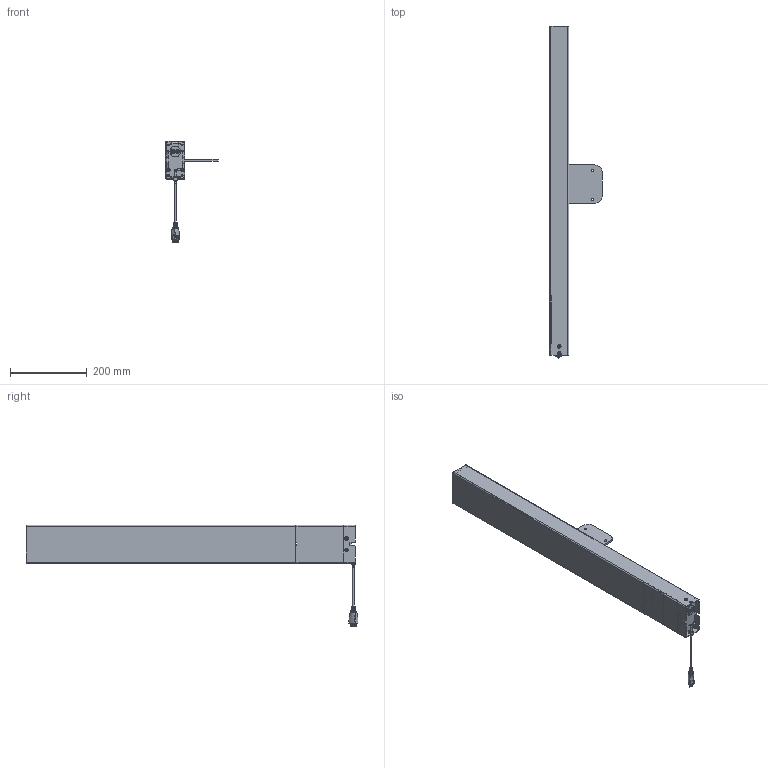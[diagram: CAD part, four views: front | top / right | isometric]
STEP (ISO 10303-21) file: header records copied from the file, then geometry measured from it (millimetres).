
FILE_DESCRIPTION (( 'STEP AP203' ), '1' );
FILE_NAME ('3D_TL25.STEP', '2024-03-06T06:09:59', ( '' ), ( '' ), 'SwSTEP 2.0', 'SolidWorks 2015', '' );
FILE_SCHEMA (( 'CONFIG_CONTROL_DESIGN' ));
Products named in the file (2): 3D_TL25
Bounding box: 137 x 866.78 x 265.75 mm (x, y, z)
Volume: 649615.6 mm3; surface area: 613106.5 mm2
Topology: 24 solids, 24 shells, 1437 faces, 3806 edges, 2460 vertices
Faces by surface type: plane 748, cylinder 524, bspline 72, cone 61, torus 24, sphere 8
Entity records: 61039 total; most frequent: CARTESIAN_POINT 26123, ORIENTED_EDGE 7582, DIRECTION 6807, EDGE_CURVE 3791, VERTEX_POINT 2453, LINE 2391, VECTOR 2391, AXIS2_PLACEMENT_3D 2208
